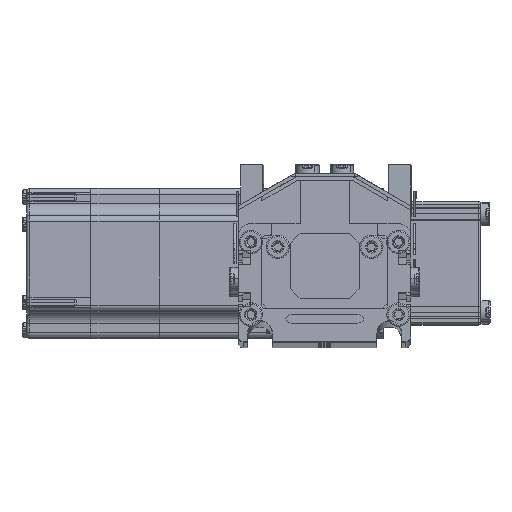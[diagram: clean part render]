
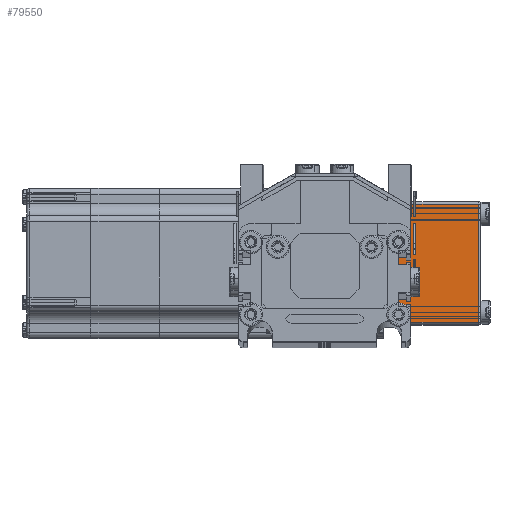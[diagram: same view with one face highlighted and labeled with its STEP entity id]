
A CAD part, top view. The second image highlights one B-rep face of the part: STEP entity #79550.
In plain terms, the highlighted planar face has unit normal (0, 0, 1) as drawn and (-1, 0, 0) by its records, which use the part's own axes.
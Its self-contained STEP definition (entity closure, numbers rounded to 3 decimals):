
#79491 = EDGE_CURVE ( 'NONE', #79742, #79537, #157646, .T. ) ;
#79537 = VERTEX_POINT ( 'NONE', #157600 ) ;
#79545 = EDGE_CURVE ( 'NONE', #79537, #79559, #157879, .T. ) ;
#79547 = VERTEX_POINT ( 'NONE', #157872 ) ;
#79550 = ADVANCED_FACE ( 'NONE', ( #157863 ), #157610, .F. ) ;
#79559 = VERTEX_POINT ( 'NONE', #157838 ) ;
#79561 = ORIENTED_EDGE ( 'NONE', *, *, #79545, .T. ) ;
#79564 = EDGE_CURVE ( 'NONE', #79559, #79547, #157828, .T. ) ;
#79570 = ORIENTED_EDGE ( 'NONE', *, *, #79564, .T. ) ;
#79573 = EDGE_CURVE ( 'NONE', #79547, #79742, #157865, .T. ) ;
#79714 = EDGE_LOOP ( 'NONE', ( #79720, #79561, #79570, #79909 ) ) ;
#79720 = ORIENTED_EDGE ( 'NONE', *, *, #79491, .T. ) ;
#79742 = VERTEX_POINT ( 'NONE', #158386 ) ;
#79909 = ORIENTED_EDGE ( 'NONE', *, *, #79573, .T. ) ;
#157600 = CARTESIAN_POINT ( 'NONE',  ( -50., -24., 0. ) ) ;
#157610 = PLANE ( 'NONE',  #157876 ) ;
#157625 = CARTESIAN_POINT ( 'NONE',  ( -50., 25., 39.5 ) ) ;
#157644 = CARTESIAN_POINT ( 'NONE',  ( -50., 25., 0. ) ) ;
#157646 = LINE ( 'NONE', #157644, #157657 ) ;
#157656 = DIRECTION ( 'NONE',  ( 0., -1., 0. ) ) ;
#157657 = VECTOR ( 'NONE', #157656, 1000. ) ;
#157803 = DIRECTION ( 'NONE',  ( 0., 0., -1. ) ) ;
#157813 = DIRECTION ( 'NONE',  ( 0., 1., 0. ) ) ;
#157815 = VECTOR ( 'NONE', #157813, 1000. ) ;
#157816 = CARTESIAN_POINT ( 'NONE',  ( -50., 25., 38.5 ) ) ;
#157828 = LINE ( 'NONE', #157816, #157815 ) ;
#157835 = VECTOR ( 'NONE', #157803, 1000. ) ;
#157838 = CARTESIAN_POINT ( 'NONE',  ( -50., -24., 38.5 ) ) ;
#157851 = DIRECTION ( 'NONE',  ( 0., 1., 0. ) ) ;
#157857 = DIRECTION ( 'NONE',  ( 1., 0., 0. ) ) ;
#157863 = FACE_OUTER_BOUND ( 'NONE', #79714, .T. ) ;
#157864 = CARTESIAN_POINT ( 'NONE',  ( -50., 24., 39.5 ) ) ;
#157865 = LINE ( 'NONE', #157864, #157835 ) ;
#157867 = DIRECTION ( 'NONE',  ( 0., 0., 1. ) ) ;
#157868 = VECTOR ( 'NONE', #157867, 1000. ) ;
#157872 = CARTESIAN_POINT ( 'NONE',  ( -50., 24., 38.5 ) ) ;
#157876 = AXIS2_PLACEMENT_3D ( 'NONE', #157625, #157857, #157851 ) ;
#157878 = CARTESIAN_POINT ( 'NONE',  ( -50., -24., 39.5 ) ) ;
#157879 = LINE ( 'NONE', #157878, #157868 ) ;
#158386 = CARTESIAN_POINT ( 'NONE',  ( -50., 24., 0. ) ) ;
